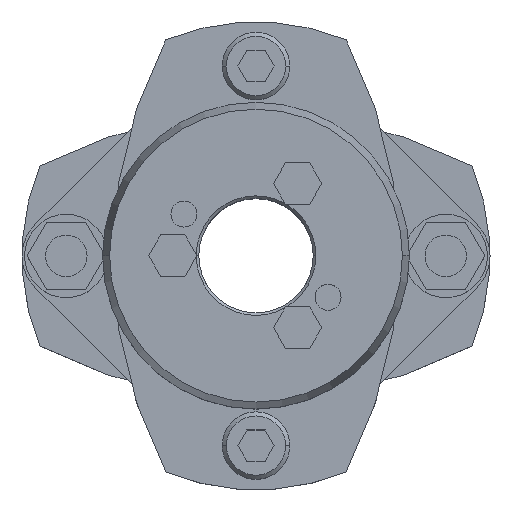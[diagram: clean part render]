
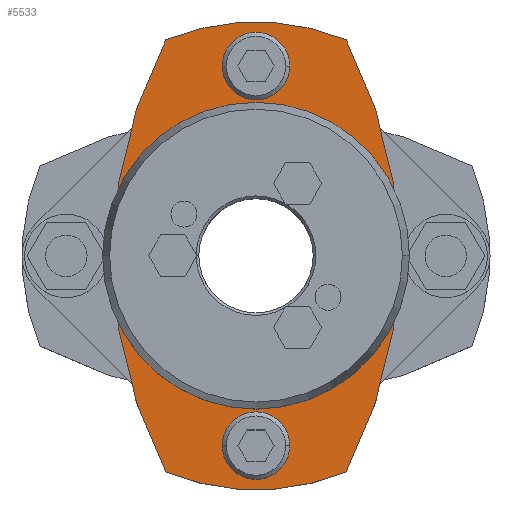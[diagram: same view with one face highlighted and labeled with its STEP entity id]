
A CAD part, top view. The second image highlights one B-rep face of the part: STEP entity #5533.
In plain terms, the highlighted planar face has unit normal (0, 0, 1).
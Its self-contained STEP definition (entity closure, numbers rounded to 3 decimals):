
#771=CARTESIAN_POINT('',(27.5,0.,14.25));
#772=VERTEX_POINT('',#771);
#781=CARTESIAN_POINT('',(17.35,-41.521,14.25));
#782=VERTEX_POINT('',#781);
#783=CARTESIAN_POINT('',(-62.5,0.,14.25));
#784=DIRECTION('',(0.0,0.0,-1.0));
#785=DIRECTION('',(-1.0,0.0,0.0));
#786=AXIS2_PLACEMENT_3D('',#783,#784,#785);
#787=CIRCLE('',#786,90.);
#788=EDGE_CURVE('',#772,#782,#787,.T.);
#815=CARTESIAN_POINT('',(-27.5,0.,14.25));
#816=VERTEX_POINT('',#815);
#832=CARTESIAN_POINT('',(-17.35,-41.521,14.25));
#833=VERTEX_POINT('',#832);
#840=CARTESIAN_POINT('',(62.5,0.,14.25));
#841=DIRECTION('',(0.0,0.0,-1.0));
#842=DIRECTION('',(-1.0,0.0,0.0));
#843=AXIS2_PLACEMENT_3D('',#840,#841,#842);
#844=CIRCLE('',#843,90.);
#845=EDGE_CURVE('',#833,#816,#844,.T.);
#1106=CARTESIAN_POINT('',(-20.5,0.,14.25));
#1107=VERTEX_POINT('',#1106);
#1157=CARTESIAN_POINT('',(20.5,0.,14.25));
#1158=VERTEX_POINT('',#1157);
#1165=CARTESIAN_POINT('',(0.,0.,14.25));
#1166=DIRECTION('',(0.0,0.0,-1.0));
#1167=DIRECTION('',(-1.0,0.0,0.0));
#1168=AXIS2_PLACEMENT_3D('',#1165,#1166,#1167);
#1169=CIRCLE('',#1168,20.5);
#1170=EDGE_CURVE('',#1107,#1158,#1169,.T.);
#1182=CARTESIAN_POINT('',(-6.5,-36.5,14.25));
#1183=VERTEX_POINT('',#1182);
#1199=CARTESIAN_POINT('',(6.5,-36.5,14.25));
#1200=VERTEX_POINT('',#1199);
#1207=CARTESIAN_POINT('',(0.,-36.5,14.25));
#1208=DIRECTION('',(0.0,0.0,-1.0));
#1209=DIRECTION('',(-1.0,0.0,0.0));
#1210=AXIS2_PLACEMENT_3D('',#1207,#1208,#1209);
#1211=CIRCLE('',#1210,6.5);
#1212=EDGE_CURVE('',#1183,#1200,#1211,.T.);
#1256=CARTESIAN_POINT('',(-6.5,36.5,14.25));
#1257=VERTEX_POINT('',#1256);
#1273=CARTESIAN_POINT('',(6.5,36.5,14.25));
#1274=VERTEX_POINT('',#1273);
#1281=CARTESIAN_POINT('',(0.,36.5,14.25));
#1282=DIRECTION('',(0.0,0.0,-1.0));
#1283=DIRECTION('',(-1.0,0.0,0.0));
#1284=AXIS2_PLACEMENT_3D('',#1281,#1282,#1283);
#1285=CIRCLE('',#1284,6.5);
#1286=EDGE_CURVE('',#1257,#1274,#1285,.T.);
#4955=CARTESIAN_POINT('',(0.,36.5,14.25));
#4956=DIRECTION('',(0.0,0.0,-1.0));
#4957=DIRECTION('',(-1.0,0.0,0.0));
#4958=AXIS2_PLACEMENT_3D('',#4955,#4956,#4957);
#4959=CIRCLE('',#4958,6.5);
#4960=EDGE_CURVE('',#1274,#1257,#4959,.T.);
#5015=CARTESIAN_POINT('',(0.,-36.5,14.25));
#5016=DIRECTION('',(0.0,0.0,-1.0));
#5017=DIRECTION('',(-1.0,0.0,0.0));
#5018=AXIS2_PLACEMENT_3D('',#5015,#5016,#5017);
#5019=CIRCLE('',#5018,6.5);
#5020=EDGE_CURVE('',#1200,#1183,#5019,.T.);
#5219=CARTESIAN_POINT('',(0.,0.,14.25));
#5220=DIRECTION('',(0.0,0.0,-1.0));
#5221=DIRECTION('',(-1.0,0.0,0.0));
#5222=AXIS2_PLACEMENT_3D('',#5219,#5220,#5221);
#5223=CIRCLE('',#5222,20.5);
#5224=EDGE_CURVE('',#1158,#1107,#5223,.T.);
#5427=CARTESIAN_POINT('',(0.,0.,14.25));
#5428=DIRECTION('',(0.0,0.0,-1.0));
#5429=DIRECTION('',(-1.0,0.0,0.0));
#5430=AXIS2_PLACEMENT_3D('',#5427,#5428,#5429);
#5431=CIRCLE('',#5430,45.);
#5432=EDGE_CURVE('',#782,#833,#5431,.T.);
#5446=CARTESIAN_POINT('',(-17.35,41.521,14.25));
#5447=VERTEX_POINT('',#5446);
#5448=CARTESIAN_POINT('',(62.5,0.,14.25));
#5449=DIRECTION('',(0.0,0.0,-1.0));
#5450=DIRECTION('',(-1.0,0.0,0.0));
#5451=AXIS2_PLACEMENT_3D('',#5448,#5449,#5450);
#5452=CIRCLE('',#5451,90.);
#5453=EDGE_CURVE('',#816,#5447,#5452,.T.);
#5470=CARTESIAN_POINT('',(17.35,41.521,14.25));
#5471=VERTEX_POINT('',#5470);
#5472=CARTESIAN_POINT('',(0.,0.,14.25));
#5473=DIRECTION('',(0.0,0.0,-1.0));
#5474=DIRECTION('',(-1.0,0.0,0.0));
#5475=AXIS2_PLACEMENT_3D('',#5472,#5473,#5474);
#5476=CIRCLE('',#5475,45.);
#5477=EDGE_CURVE('',#5447,#5471,#5476,.T.);
#5498=CARTESIAN_POINT('',(-62.5,0.,14.25));
#5499=DIRECTION('',(0.0,0.0,-1.0));
#5500=DIRECTION('',(-1.0,0.0,0.0));
#5501=AXIS2_PLACEMENT_3D('',#5498,#5499,#5500);
#5502=CIRCLE('',#5501,90.);
#5503=EDGE_CURVE('',#5471,#772,#5502,.T.);
#5508=CARTESIAN_POINT('',(0.,0.,14.25));
#5509=DIRECTION('',(0.0,0.0,1.0));
#5510=DIRECTION('',(-1.0,0.0,0.0));
#5511=AXIS2_PLACEMENT_3D('',#5508,#5509,#5510);
#5512=PLANE('',#5511);
#5513=ORIENTED_EDGE('',*,*,#5432,.F.);
#5514=ORIENTED_EDGE('',*,*,#788,.F.);
#5515=ORIENTED_EDGE('',*,*,#5503,.F.);
#5516=ORIENTED_EDGE('',*,*,#5477,.F.);
#5517=ORIENTED_EDGE('',*,*,#5453,.F.);
#5518=ORIENTED_EDGE('',*,*,#845,.F.);
#5519=EDGE_LOOP('',(#5513,#5514,#5515,#5516,#5517,#5518));
#5520=FACE_OUTER_BOUND('',#5519,.T.);
#5521=ORIENTED_EDGE('',*,*,#1286,.T.);
#5522=ORIENTED_EDGE('',*,*,#4960,.T.);
#5523=EDGE_LOOP('',(#5521,#5522));
#5524=FACE_BOUND('',#5523,.T.);
#5525=ORIENTED_EDGE('',*,*,#1212,.T.);
#5526=ORIENTED_EDGE('',*,*,#5020,.T.);
#5527=EDGE_LOOP('',(#5525,#5526));
#5528=FACE_BOUND('',#5527,.T.);
#5529=ORIENTED_EDGE('',*,*,#1170,.T.);
#5530=ORIENTED_EDGE('',*,*,#5224,.T.);
#5531=EDGE_LOOP('',(#5529,#5530));
#5532=FACE_BOUND('',#5531,.T.);
#5533=ADVANCED_FACE('',(#5520,#5524,#5528,#5532),#5512,.T.);
